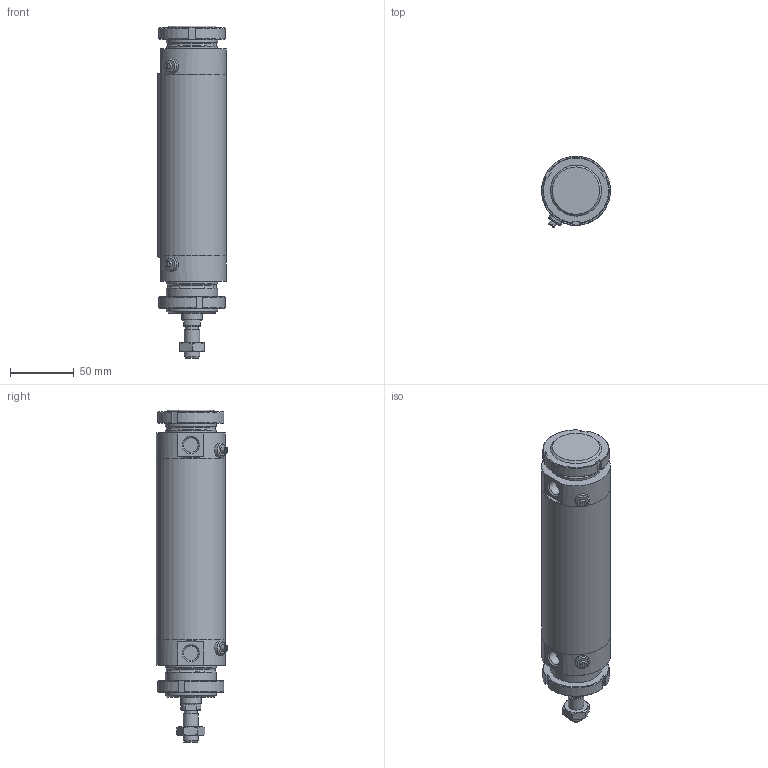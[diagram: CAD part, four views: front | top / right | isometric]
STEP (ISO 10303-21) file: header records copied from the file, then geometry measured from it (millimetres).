
FILE_DESCRIPTION(/* description */ (''),/* implementation_level */ '2;1');
FILE_NAME(/* name */ 'I:\Area Tecnica\Documenti\A-Manieri\_Inventor\12X\12X#C_###_####_#_#\12XBC_050_0100_#_#.stp',/* time_stamp */ '2015-04-28T15:43:45+02:00',/* author */ ('maniean1'),/* organization */ ('Pneumax S.p.A.'),/* preprocessor_version */ 'ST-DEVELOPER v15.2',/* originating_system */ 'Autodesk Inventor 2014',/* authorisation */ '');
FILE_SCHEMA (('AUTOMOTIVE_DESIGN { 1 0 10303 214 3 1 1 }'));
Length unit declared in the file: millimetre
Products named in the file (7): C1250_619-0100; 12X50_606; S12X50_0100; 12X_50_11; 12X50_621; G12X_050_05; 12XBC_050_0100_#_#
Bounding box: 54 x 55.88 x 260 mm (x, y, z)
Volume: 314911.4 mm3; surface area: 99722.8 mm2
Topology: 7 solids, 7 shells, 124 faces, 282 edges, 182 vertices
Faces by surface type: plane 64, cylinder 31, cone 27, torus 2
Full cylindrical faces by diameter (mm): 5 x2, 10.2 x1, 11 x2, 11.4 x2, 12 x2, 14 x1, 15.6 x1, 16 x1, 38.2 x2, 40 x6, 50 x2, 54 x3
Entity records: 2755 total; most frequent: CARTESIAN_POINT 553, DIRECTION 462, ORIENTED_EDGE 356, AXIS2_PLACEMENT_3D 197, EDGE_CURVE 178, EDGE_LOOP 160, VERTEX_POINT 136, ADVANCED_FACE 103
